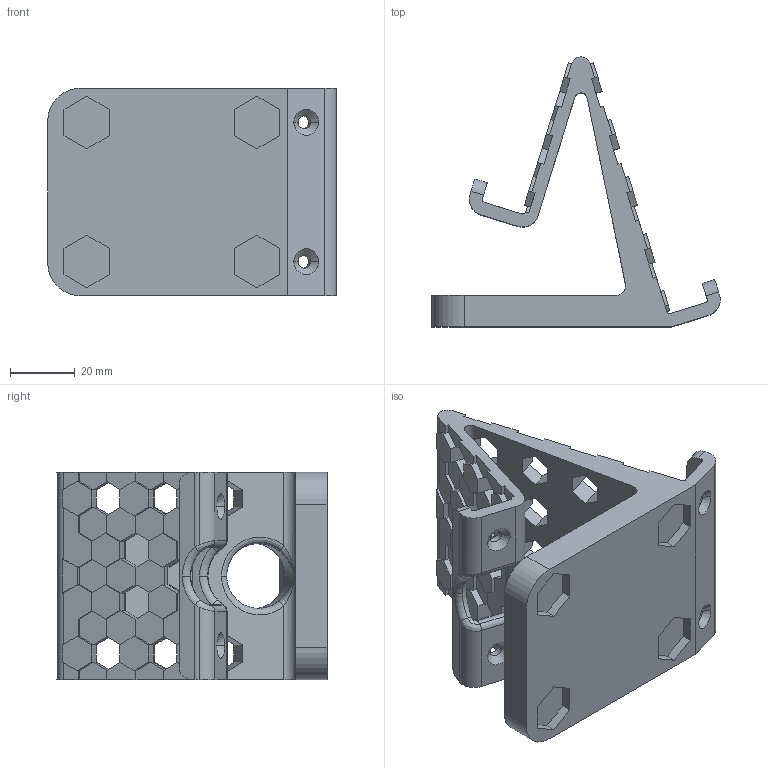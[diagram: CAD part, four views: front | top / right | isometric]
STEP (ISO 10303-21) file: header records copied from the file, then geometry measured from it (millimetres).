
FILE_DESCRIPTION (( 'STEP AP214' ), '1' );
FILE_NAME ('Phone_holder_PETG.STEP', '2020-06-13T21:43:58', ( '' ), ( '' ), 'SwSTEP 2.0', 'SolidWorks 2018', '' );
FILE_SCHEMA (( 'AUTOMOTIVE_DESIGN' ));
Length unit declared in the file: millimetre
Products named in the file (1): Phone_holder_PETG
Bounding box: 88.98 x 83.3 x 64 mm (x, y, z)
Volume: 80601.6 mm3; surface area: 35788.4 mm2
Topology: 1 solids, 1 shells, 543 faces, 1454 edges, 890 vertices
Faces by surface type: plane 473, cylinder 41, bspline 11, cone 10, torus 8
Entity records: 17295 total; most frequent: CARTESIAN_POINT 3824, ORIENTED_EDGE 2908, DIRECTION 2588, EDGE_CURVE 1454, VECTOR 1312, LINE 1312, VERTEX_POINT 890, AXIS2_PLACEMENT_3D 638
